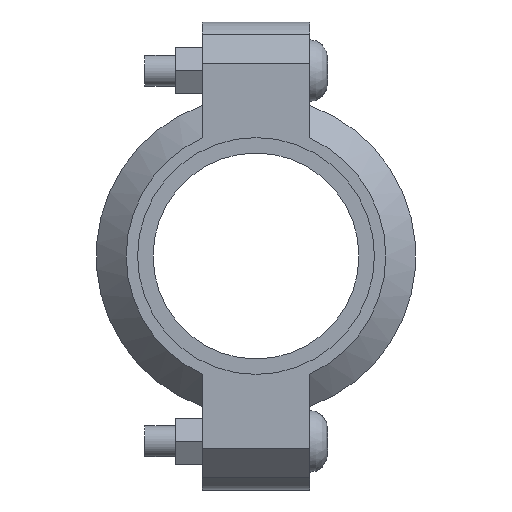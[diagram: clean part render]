
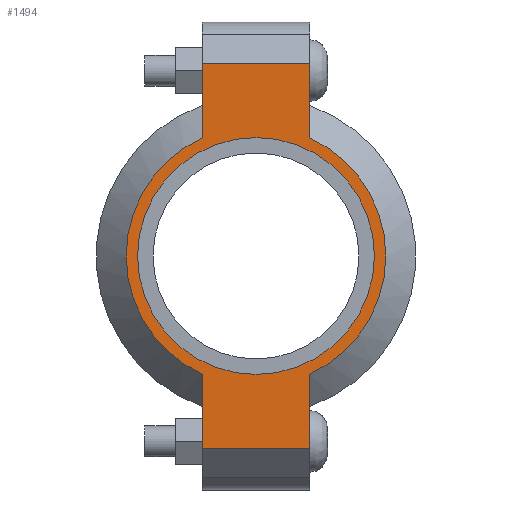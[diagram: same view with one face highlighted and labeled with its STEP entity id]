
A CAD part, left-side view. The second image highlights one B-rep face of the part: STEP entity #1494.
In plain terms, the highlighted planar face has unit normal (-1, 0, 0) as drawn and (0, 0, 1) by its records, which use the part's own axes.
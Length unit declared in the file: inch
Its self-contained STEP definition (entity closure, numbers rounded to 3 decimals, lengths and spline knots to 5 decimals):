
#118=LINE('',#2607,#211);
#126=LINE('',#2643,#219);
#133=LINE('',#2664,#226);
#142=LINE('',#2696,#235);
#143=LINE('',#2700,#236);
#144=LINE('',#2702,#237);
#211=VECTOR('',#2135,0.3937);
#219=VECTOR('',#2151,0.3937);
#226=VECTOR('',#2170,0.3937);
#235=VECTOR('',#2195,0.3937);
#236=VECTOR('',#2200,0.3937);
#237=VECTOR('',#2201,0.3937);
#293=FACE_BOUND('',#471,.T.);
#365=FACE_OUTER_BOUND('',#470,.T.);
#470=EDGE_LOOP('',(#1235,#1236,#1237,#1238,#1239,#1240,#1241,#1242));
#471=EDGE_LOOP('',(#1243));
#543=CIRCLE('',#1713,1.4375);
#569=CIRCLE('',#1772,1.575);
#570=CIRCLE('',#1773,1.575);
#635=VERTEX_POINT('',#2423);
#678=VERTEX_POINT('',#2604);
#679=VERTEX_POINT('',#2606);
#690=VERTEX_POINT('',#2638);
#691=VERTEX_POINT('',#2642);
#698=VERTEX_POINT('',#2661);
#699=VERTEX_POINT('',#2663);
#709=VERTEX_POINT('',#2699);
#710=VERTEX_POINT('',#2701);
#791=EDGE_CURVE('',#635,#635,#543,.T.);
#852=EDGE_CURVE('',#679,#678,#118,.T.);
#866=EDGE_CURVE('',#691,#690,#126,.T.);
#876=EDGE_CURVE('',#699,#698,#133,.T.);
#891=EDGE_CURVE('',#691,#678,#142,.T.);
#892=EDGE_CURVE('',#690,#699,#569,.T.);
#893=EDGE_CURVE('',#709,#698,#143,.T.);
#894=EDGE_CURVE('',#709,#710,#144,.T.);
#895=EDGE_CURVE('',#710,#679,#570,.T.);
#1235=ORIENTED_EDGE('',*,*,#891,.F.);
#1236=ORIENTED_EDGE('',*,*,#866,.T.);
#1237=ORIENTED_EDGE('',*,*,#892,.T.);
#1238=ORIENTED_EDGE('',*,*,#876,.T.);
#1239=ORIENTED_EDGE('',*,*,#893,.F.);
#1240=ORIENTED_EDGE('',*,*,#894,.T.);
#1241=ORIENTED_EDGE('',*,*,#895,.T.);
#1242=ORIENTED_EDGE('',*,*,#852,.T.);
#1243=ORIENTED_EDGE('',*,*,#791,.T.);
#1336=PLANE('',#1771);
#1494=ADVANCED_FACE('',(#365,#293),#1336,.T.);
#1713=AXIS2_PLACEMENT_3D('',#2425,#2011,#2012);
#1771=AXIS2_PLACEMENT_3D('',#2697,#2196,#2197);
#1772=AXIS2_PLACEMENT_3D('',#2698,#2198,#2199);
#1773=AXIS2_PLACEMENT_3D('',#2703,#2202,#2203);
#2011=DIRECTION('center_axis',(0.,0.,-1.));
#2012=DIRECTION('ref_axis',(-1.,0.,0.));
#2135=DIRECTION('',(-1.,0.,0.));
#2151=DIRECTION('',(1.,0.,0.));
#2170=DIRECTION('',(1.,0.,0.));
#2195=DIRECTION('',(0.,1.,0.));
#2196=DIRECTION('center_axis',(0.,0.,1.));
#2197=DIRECTION('ref_axis',(1.,0.,0.));
#2198=DIRECTION('center_axis',(0.,0.,1.));
#2199=DIRECTION('ref_axis',(-1.,0.,0.));
#2200=DIRECTION('',(0.,-1.,0.));
#2201=DIRECTION('',(-1.,0.,0.));
#2202=DIRECTION('center_axis',(0.,0.,1.));
#2203=DIRECTION('ref_axis',(-1.,0.,0.));
#2423=CARTESIAN_POINT('',(1.4375,0.,0.94));
#2425=CARTESIAN_POINT('Origin',(0.,0.,0.94));
#2604=CARTESIAN_POINT('',(-2.34,0.65,0.94));
#2606=CARTESIAN_POINT('',(-1.43462,0.65,0.94));
#2607=CARTESIAN_POINT('',(-2.84,0.65,0.94));
#2638=CARTESIAN_POINT('',(-1.43462,-0.65,0.94));
#2642=CARTESIAN_POINT('',(-2.34,-0.65,0.94));
#2643=CARTESIAN_POINT('',(2.84,-0.65,0.94));
#2661=CARTESIAN_POINT('',(2.34,-0.65,0.94));
#2663=CARTESIAN_POINT('',(1.43462,-0.65,0.94));
#2664=CARTESIAN_POINT('',(2.84,-0.65,0.94));
#2696=CARTESIAN_POINT('',(-2.34,0.325,0.94));
#2697=CARTESIAN_POINT('Origin',(0.,0.,
0.94));
#2698=CARTESIAN_POINT('Origin',(0.,0.,0.94));
#2699=CARTESIAN_POINT('',(2.34,0.65,0.94));
#2700=CARTESIAN_POINT('',(2.34,-0.325,0.94));
#2701=CARTESIAN_POINT('',(1.43462,0.65,0.94));
#2702=CARTESIAN_POINT('',(-2.84,0.65,0.94));
#2703=CARTESIAN_POINT('Origin',(0.,0.,0.94));
